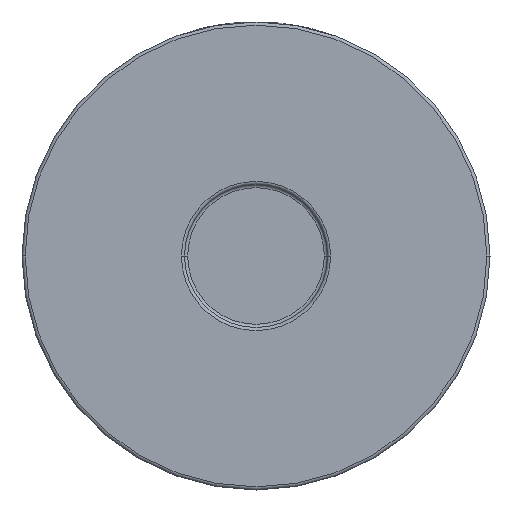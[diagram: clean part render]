
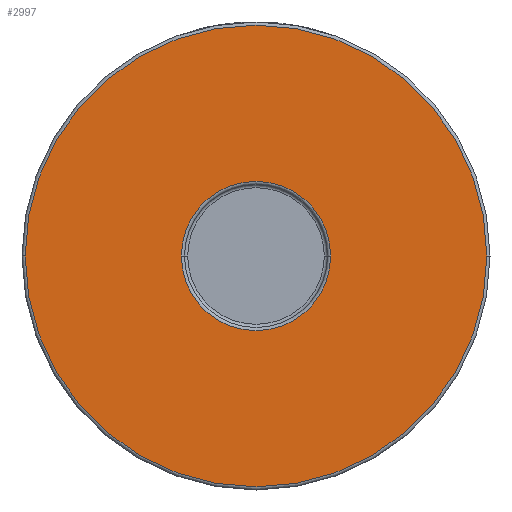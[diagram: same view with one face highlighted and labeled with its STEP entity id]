
A CAD part, front view. The second image highlights one B-rep face of the part: STEP entity #2997.
In plain terms, the highlighted planar face has unit normal (0, -1, 0).
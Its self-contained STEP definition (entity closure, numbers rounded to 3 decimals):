
#1 = EDGE_CURVE ( 'NONE', #2989, #2276, #2394, .T. ) ;
#96 = DIRECTION ( 'NONE',  ( 1., 0., 0. ) ) ;
#154 = ORIENTED_EDGE ( 'NONE', *, *, #891, .T. ) ;
#173 = CARTESIAN_POINT ( 'NONE',  ( 73., -31., 0. ) ) ;
#886 = FACE_OUTER_BOUND ( 'NONE', #3680, .T. ) ;
#891 = EDGE_CURVE ( 'NONE', #1259, #1366, #3657, .T. ) ;
#1092 = DIRECTION ( 'NONE',  ( 0., -1., 0. ) ) ;
#1103 = EDGE_CURVE ( 'NONE', #2276, #2989, #3587, .T. ) ;
#1112 = CARTESIAN_POINT ( 'NONE',  ( 0., -31., 0. ) ) ;
#1152 = DIRECTION ( 'NONE',  ( 0., 1., 0. ) ) ;
#1156 = CIRCLE ( 'NONE', #2571, 23.6 ) ;
#1259 = VERTEX_POINT ( 'NONE', #1816 ) ;
#1321 = CARTESIAN_POINT ( 'NONE',  ( 0., -31., 0. ) ) ;
#1366 = VERTEX_POINT ( 'NONE', #2147 ) ;
#1657 = DIRECTION ( 'NONE',  ( 0., -1., 0. ) ) ;
#1726 = CARTESIAN_POINT ( 'NONE',  ( -73., -31., 0. ) ) ;
#1816 = CARTESIAN_POINT ( 'NONE',  ( -23.6, -31., 0. ) ) ;
#1978 = EDGE_CURVE ( 'NONE', #1366, #1259, #1156, .T. ) ;
#2147 = CARTESIAN_POINT ( 'NONE',  ( 23.6, -31., 0. ) ) ;
#2276 = VERTEX_POINT ( 'NONE', #1726 ) ;
#2394 = CIRCLE ( 'NONE', #3356, 73. ) ;
#2537 = ORIENTED_EDGE ( 'NONE', *, *, #1, .T. ) ;
#2571 = AXIS2_PLACEMENT_3D ( 'NONE', #3616, #1152, #3321 ) ;
#2640 = CARTESIAN_POINT ( 'NONE',  ( 74., -31., 0. ) ) ;
#2748 = DIRECTION ( 'NONE',  ( 0., -1., 0. ) ) ;
#2854 = AXIS2_PLACEMENT_3D ( 'NONE', #1321, #2748, #4111 ) ;
#2989 = VERTEX_POINT ( 'NONE', #173 ) ;
#2997 = ADVANCED_FACE ( 'NONE', ( #3401, #886 ), #3052, .T. ) ;
#3052 = PLANE ( 'NONE',  #3822 ) ;
#3112 = ORIENTED_EDGE ( 'NONE', *, *, #1103, .T. ) ;
#3307 = DIRECTION ( 'NONE',  ( 1., 0., 0. ) ) ;
#3321 = DIRECTION ( 'NONE',  ( 1., 0., 0. ) ) ;
#3356 = AXIS2_PLACEMENT_3D ( 'NONE', #1112, #1092, #96 ) ;
#3401 = FACE_BOUND ( 'NONE', #4184, .T. ) ;
#3423 = DIRECTION ( 'NONE',  ( 1., 0., 0. ) ) ;
#3587 = CIRCLE ( 'NONE', #2854, 73. ) ;
#3616 = CARTESIAN_POINT ( 'NONE',  ( 0., -31., 0. ) ) ;
#3645 = CARTESIAN_POINT ( 'NONE',  ( 0., -31., 0. ) ) ;
#3657 = CIRCLE ( 'NONE', #4259, 23.6 ) ;
#3680 = EDGE_LOOP ( 'NONE', ( #2537, #3112 ) ) ;
#3822 = AXIS2_PLACEMENT_3D ( 'NONE', #2640, #1657, #3423 ) ;
#4111 = DIRECTION ( 'NONE',  ( 1., 0., 0. ) ) ;
#4184 = EDGE_LOOP ( 'NONE', ( #4502, #154 ) ) ;
#4259 = AXIS2_PLACEMENT_3D ( 'NONE', #3645, #4308, #3307 ) ;
#4308 = DIRECTION ( 'NONE',  ( 0., 1., 0. ) ) ;
#4502 = ORIENTED_EDGE ( 'NONE', *, *, #1978, .T. ) ;
